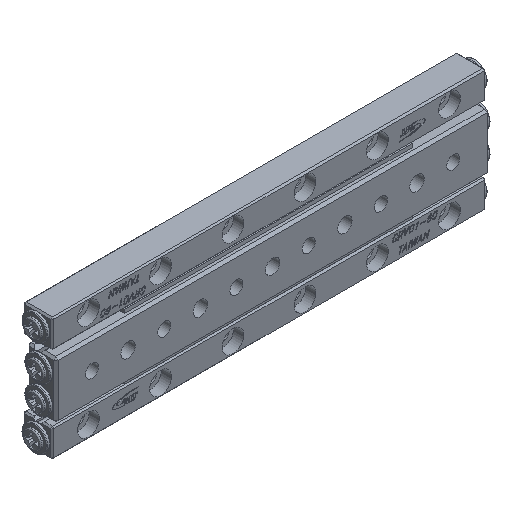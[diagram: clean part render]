
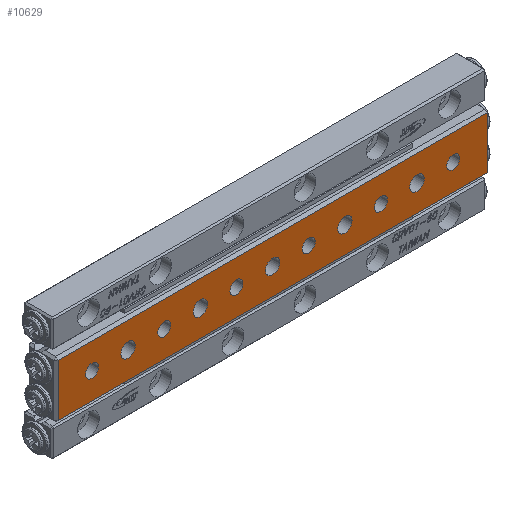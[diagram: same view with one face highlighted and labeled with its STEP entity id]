
A CAD part, isometric view. The second image highlights one B-rep face of the part: STEP entity #10629.
In plain terms, the highlighted planar face has unit normal (0, -1, 0).
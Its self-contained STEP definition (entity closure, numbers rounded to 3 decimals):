
#238 = LINE ( 'NONE', #7946, #17316 ) ;
#686 = VECTOR ( 'NONE', #22748, 1000. ) ;
#867 = CARTESIAN_POINT ( 'NONE',  ( 20., 0., 0. ) ) ;
#1009 = ORIENTED_EDGE ( 'NONE', *, *, #32139, .T. ) ;
#1156 = VERTEX_POINT ( 'NONE', #2138 ) ;
#1849 = AXIS2_PLACEMENT_3D ( 'NONE', #9079, #8891, #18680 ) ;
#2114 = ORIENTED_EDGE ( 'NONE', *, *, #15765, .T. ) ;
#2138 = CARTESIAN_POINT ( 'NONE',  ( 20., 0., 1. ) ) ;
#2266 = VERTEX_POINT ( 'NONE', #40000 ) ;
#2338 = CARTESIAN_POINT ( 'NONE',  ( -20., 0., 1. ) ) ;
#2509 = CARTESIAN_POINT ( 'NONE',  ( -10., 0., 0. ) ) ;
#2611 = VECTOR ( 'NONE', #5024, 1000. ) ;
#3138 = CARTESIAN_POINT ( 'NONE',  ( 25., 0., 0.9 ) ) ;
#3167 = FACE_BOUND ( 'NONE', #30701, .T. ) ;
#3555 = DIRECTION ( 'NONE',  ( 0., 1., 0. ) ) ;
#3572 = FACE_BOUND ( 'NONE', #18365, .T. ) ;
#3573 = CARTESIAN_POINT ( 'NONE',  ( 5., 0., 0. ) ) ;
#3960 = CIRCLE ( 'NONE', #19964, 1. ) ;
#4267 = EDGE_LOOP ( 'NONE', ( #17594 ) ) ;
#4497 = CIRCLE ( 'NONE', #1849, 0.9 ) ;
#4665 = CARTESIAN_POINT ( 'NONE',  ( 29.7, 0., -3.6 ) ) ;
#4942 = ORIENTED_EDGE ( 'NONE', *, *, #38814, .T. ) ;
#5024 = DIRECTION ( 'NONE',  ( 0., 0., -1. ) ) ;
#6093 = FACE_BOUND ( 'NONE', #40360, .T. ) ;
#6227 = CARTESIAN_POINT ( 'NONE',  ( -25., 0., 0. ) ) ;
#6327 = CIRCLE ( 'NONE', #18337, 0.9 ) ;
#6482 = CARTESIAN_POINT ( 'NONE',  ( -29.7, 0., 3.6 ) ) ;
#6489 = DIRECTION ( 'NONE',  ( 0., 1., 0. ) ) ;
#7278 = CIRCLE ( 'NONE', #32612, 1. ) ;
#7313 = EDGE_LOOP ( 'NONE', ( #29581 ) ) ;
#7613 = VERTEX_POINT ( 'NONE', #40115 ) ;
#7758 = EDGE_LOOP ( 'NONE', ( #30163 ) ) ;
#7946 = CARTESIAN_POINT ( 'NONE',  ( -30., 0., 3.6 ) ) ;
#8535 = EDGE_CURVE ( 'NONE', #25969, #25969, #4497, .T. ) ;
#8585 = VERTEX_POINT ( 'NONE', #11941 ) ;
#8891 = DIRECTION ( 'NONE',  ( 0., 1., 0. ) ) ;
#9079 = CARTESIAN_POINT ( 'NONE',  ( 15., 0., 0. ) ) ;
#9224 = FACE_BOUND ( 'NONE', #4267, .T. ) ;
#9323 = EDGE_LOOP ( 'NONE', ( #28547, #12374, #20358, #25381 ) ) ;
#9813 = CIRCLE ( 'NONE', #41150, 0.9 ) ;
#9834 = DIRECTION ( 'NONE',  ( 0., 0., 1. ) ) ;
#10169 = VERTEX_POINT ( 'NONE', #4665 ) ;
#10346 = CIRCLE ( 'NONE', #22974, 0.9 ) ;
#10629 = ADVANCED_FACE ( 'NONE', ( #19013, #3572, #19445, #9224, #12372, #34692, #15897, #16303, #31950, #3167, #6093, #12573 ), #29016, .F. ) ;
#10645 = CARTESIAN_POINT ( 'NONE',  ( 0., 0., 0. ) ) ;
#10684 = DIRECTION ( 'NONE',  ( -1., 0., 0. ) ) ;
#11378 = EDGE_LOOP ( 'NONE', ( #1009 ) ) ;
#11463 = AXIS2_PLACEMENT_3D ( 'NONE', #10645, #36095, #13979 ) ;
#11749 = EDGE_CURVE ( 'NONE', #10169, #24072, #21950, .T. ) ;
#11915 = DIRECTION ( 'NONE',  ( 0., 0., 1. ) ) ;
#11941 = CARTESIAN_POINT ( 'NONE',  ( -5., 0., 0.9 ) ) ;
#12132 = EDGE_CURVE ( 'NONE', #13246, #13246, #18742, .T. ) ;
#12170 = CARTESIAN_POINT ( 'NONE',  ( 29.7, 0., 3.6 ) ) ;
#12372 = FACE_BOUND ( 'NONE', #11378, .T. ) ;
#12374 = ORIENTED_EDGE ( 'NONE', *, *, #23337, .T. ) ;
#12546 = CARTESIAN_POINT ( 'NONE',  ( -15., 0., 0.9 ) ) ;
#12573 = FACE_BOUND ( 'NONE', #25739, .T. ) ;
#12775 = CARTESIAN_POINT ( 'NONE',  ( -30., 0., 3.9 ) ) ;
#13246 = VERTEX_POINT ( 'NONE', #38706 ) ;
#13599 = DIRECTION ( 'NONE',  ( 0., 1., 0. ) ) ;
#13766 = ORIENTED_EDGE ( 'NONE', *, *, #23550, .T. ) ;
#13786 = CARTESIAN_POINT ( 'NONE',  ( 10., 0., 1. ) ) ;
#13979 = DIRECTION ( 'NONE',  ( 0., 0., 1. ) ) ;
#14923 = DIRECTION ( 'NONE',  ( 0., 1., 0. ) ) ;
#15765 = EDGE_CURVE ( 'NONE', #32870, #32870, #6327, .T. ) ;
#15897 = FACE_BOUND ( 'NONE', #40306, .T. ) ;
#16303 = FACE_BOUND ( 'NONE', #22131, .T. ) ;
#16511 = EDGE_CURVE ( 'NONE', #23371, #2266, #30680, .T. ) ;
#17316 = VECTOR ( 'NONE', #10684, 1000. ) ;
#17594 = ORIENTED_EDGE ( 'NONE', *, *, #12132, .T. ) ;
#17615 = ORIENTED_EDGE ( 'NONE', *, *, #28551, .T. ) ;
#17839 = ORIENTED_EDGE ( 'NONE', *, *, #8535, .T. ) ;
#18062 = VECTOR ( 'NONE', #31352, 1000. ) ;
#18337 = AXIS2_PLACEMENT_3D ( 'NONE', #6227, #18957, #28554 ) ;
#18365 = EDGE_LOOP ( 'NONE', ( #13766 ) ) ;
#18374 = ORIENTED_EDGE ( 'NONE', *, *, #32170, .T. ) ;
#18680 = DIRECTION ( 'NONE',  ( 0., 0., 1. ) ) ;
#18742 = CIRCLE ( 'NONE', #11463, 1. ) ;
#18957 = DIRECTION ( 'NONE',  ( 0., 1., 0. ) ) ;
#18987 = CARTESIAN_POINT ( 'NONE',  ( -10., 0., 1. ) ) ;
#19013 = FACE_OUTER_BOUND ( 'NONE', #9323, .T. ) ;
#19195 = VERTEX_POINT ( 'NONE', #13786 ) ;
#19445 = FACE_BOUND ( 'NONE', #7313, .T. ) ;
#19513 = CARTESIAN_POINT ( 'NONE',  ( 15., 0., 0.9 ) ) ;
#19964 = AXIS2_PLACEMENT_3D ( 'NONE', #21779, #14923, #21385 ) ;
#20349 = VERTEX_POINT ( 'NONE', #2338 ) ;
#20358 = ORIENTED_EDGE ( 'NONE', *, *, #11749, .T. ) ;
#20484 = CARTESIAN_POINT ( 'NONE',  ( -29.7, 0., 3.9 ) ) ;
#21359 = CARTESIAN_POINT ( 'NONE',  ( 29.7, 0., 3.9 ) ) ;
#21385 = DIRECTION ( 'NONE',  ( 0., 0., 1. ) ) ;
#21667 = EDGE_CURVE ( 'NONE', #20349, #20349, #3960, .T. ) ;
#21779 = CARTESIAN_POINT ( 'NONE',  ( -20., 0., 0. ) ) ;
#21798 = EDGE_LOOP ( 'NONE', ( #17615 ) ) ;
#21950 = LINE ( 'NONE', #21359, #18062 ) ;
#22106 = VERTEX_POINT ( 'NONE', #18987 ) ;
#22120 = DIRECTION ( 'NONE',  ( 0., 0., 1. ) ) ;
#22130 = CARTESIAN_POINT ( 'NONE',  ( -30., 0., -3.6 ) ) ;
#22131 = EDGE_LOOP ( 'NONE', ( #17839 ) ) ;
#22303 = EDGE_CURVE ( 'NONE', #8585, #8585, #33993, .T. ) ;
#22514 = VERTEX_POINT ( 'NONE', #3138 ) ;
#22748 = DIRECTION ( 'NONE',  ( 1., 0., 0. ) ) ;
#22974 = AXIS2_PLACEMENT_3D ( 'NONE', #3573, #29017, #9834 ) ;
#23127 = AXIS2_PLACEMENT_3D ( 'NONE', #12775, #6489, #40939 ) ;
#23337 = EDGE_CURVE ( 'NONE', #2266, #10169, #31541, .T. ) ;
#23371 = VERTEX_POINT ( 'NONE', #6482 ) ;
#23550 = EDGE_CURVE ( 'NONE', #1156, #1156, #7278, .T. ) ;
#23776 = DIRECTION ( 'NONE',  ( 0., 0., 1. ) ) ;
#24072 = VERTEX_POINT ( 'NONE', #12170 ) ;
#24291 = EDGE_CURVE ( 'NONE', #24072, #23371, #238, .T. ) ;
#24381 = DIRECTION ( 'NONE',  ( 0., 1., 0. ) ) ;
#24811 = DIRECTION ( 'NONE',  ( 0., 1., 0. ) ) ;
#25009 = DIRECTION ( 'NONE',  ( 0., 1., 0. ) ) ;
#25381 = ORIENTED_EDGE ( 'NONE', *, *, #24291, .T. ) ;
#25449 = VERTEX_POINT ( 'NONE', #12546 ) ;
#25739 = EDGE_LOOP ( 'NONE', ( #2114 ) ) ;
#25969 = VERTEX_POINT ( 'NONE', #19513 ) ;
#26313 = DIRECTION ( 'NONE',  ( 0., 0., 1. ) ) ;
#28098 = AXIS2_PLACEMENT_3D ( 'NONE', #30718, #33646, #30312 ) ;
#28495 = CIRCLE ( 'NONE', #34504, 1. ) ;
#28547 = ORIENTED_EDGE ( 'NONE', *, *, #16511, .T. ) ;
#28551 = EDGE_CURVE ( 'NONE', #7613, #7613, #10346, .T. ) ;
#28554 = DIRECTION ( 'NONE',  ( 0., 0., 1. ) ) ;
#29016 = PLANE ( 'NONE',  #23127 ) ;
#29017 = DIRECTION ( 'NONE',  ( 0., 1., 0. ) ) ;
#29581 = ORIENTED_EDGE ( 'NONE', *, *, #39475, .T. ) ;
#30163 = ORIENTED_EDGE ( 'NONE', *, *, #21667, .T. ) ;
#30312 = DIRECTION ( 'NONE',  ( 0., 0., 1. ) ) ;
#30680 = LINE ( 'NONE', #20484, #2611 ) ;
#30701 = EDGE_LOOP ( 'NONE', ( #35310 ) ) ;
#30718 = CARTESIAN_POINT ( 'NONE',  ( 10., 0., 0. ) ) ;
#31293 = AXIS2_PLACEMENT_3D ( 'NONE', #41124, #3555, #22120 ) ;
#31352 = DIRECTION ( 'NONE',  ( 0., 0., 1. ) ) ;
#31541 = LINE ( 'NONE', #22130, #686 ) ;
#31950 = FACE_BOUND ( 'NONE', #21798, .T. ) ;
#32039 = AXIS2_PLACEMENT_3D ( 'NONE', #40260, #24381, #23776 ) ;
#32072 = CIRCLE ( 'NONE', #28098, 1. ) ;
#32139 = EDGE_CURVE ( 'NONE', #22106, #22106, #28495, .T. ) ;
#32170 = EDGE_CURVE ( 'NONE', #22514, #22514, #9813, .T. ) ;
#32612 = AXIS2_PLACEMENT_3D ( 'NONE', #867, #13599, #26313 ) ;
#32870 = VERTEX_POINT ( 'NONE', #33839 ) ;
#33646 = DIRECTION ( 'NONE',  ( 0., 1., 0. ) ) ;
#33839 = CARTESIAN_POINT ( 'NONE',  ( -25., 0., 0.9 ) ) ;
#33993 = CIRCLE ( 'NONE', #31293, 0.9 ) ;
#34433 = DIRECTION ( 'NONE',  ( 0., 0., 1. ) ) ;
#34504 = AXIS2_PLACEMENT_3D ( 'NONE', #2509, #24811, #34433 ) ;
#34633 = CARTESIAN_POINT ( 'NONE',  ( 25., 0., 0. ) ) ;
#34692 = FACE_BOUND ( 'NONE', #7758, .T. ) ;
#35310 = ORIENTED_EDGE ( 'NONE', *, *, #22303, .T. ) ;
#36095 = DIRECTION ( 'NONE',  ( 0., 1., 0. ) ) ;
#36726 = CIRCLE ( 'NONE', #32039, 0.9 ) ;
#38706 = CARTESIAN_POINT ( 'NONE',  ( 0., 0., 1. ) ) ;
#38814 = EDGE_CURVE ( 'NONE', #25449, #25449, #36726, .T. ) ;
#39475 = EDGE_CURVE ( 'NONE', #19195, #19195, #32072, .T. ) ;
#40000 = CARTESIAN_POINT ( 'NONE',  ( -29.7, 0., -3.6 ) ) ;
#40115 = CARTESIAN_POINT ( 'NONE',  ( 5., 0., 0.9 ) ) ;
#40260 = CARTESIAN_POINT ( 'NONE',  ( -15., 0., 0. ) ) ;
#40306 = EDGE_LOOP ( 'NONE', ( #18374 ) ) ;
#40360 = EDGE_LOOP ( 'NONE', ( #4942 ) ) ;
#40939 = DIRECTION ( 'NONE',  ( 0., 0., 1. ) ) ;
#41124 = CARTESIAN_POINT ( 'NONE',  ( -5., 0., 0. ) ) ;
#41150 = AXIS2_PLACEMENT_3D ( 'NONE', #34633, #25009, #11915 ) ;
